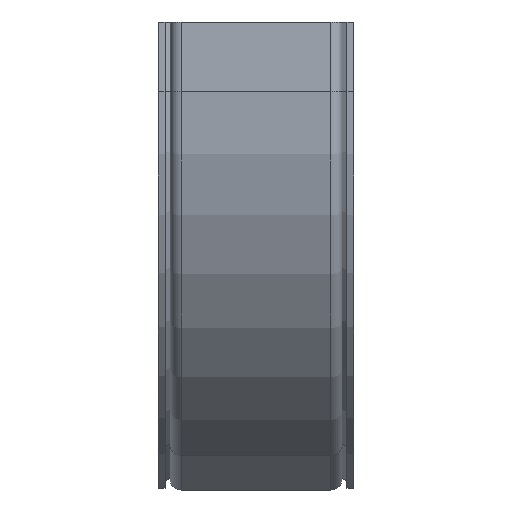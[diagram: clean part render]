
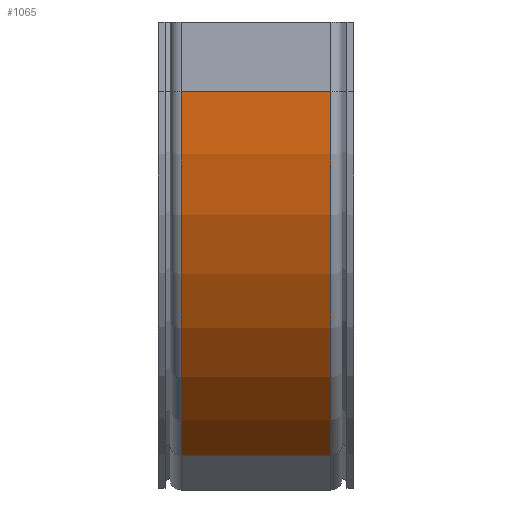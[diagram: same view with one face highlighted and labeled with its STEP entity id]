
A CAD part, left-side view. The second image highlights one B-rep face of the part: STEP entity #1065.
In plain terms, the highlighted cylindrical face has radius 242.5 mm (diameter 485 mm), a partial arc.
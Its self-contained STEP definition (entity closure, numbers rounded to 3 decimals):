
#445 = DIRECTION ( 'NONE',  ( 0., -1., 0. ) ) ;
#831 = AXIS2_PLACEMENT_3D ( 'NONE', #982, #1063, #936 ) ;
#936 = DIRECTION ( 'NONE',  ( 0., 0., 1. ) ) ;
#982 = CARTESIAN_POINT ( 'NONE',  ( 200., 0., -40. ) ) ;
#1003 = CARTESIAN_POINT ( 'NONE',  ( 78.75, 43., -250.011 ) ) ;
#1030 = EDGE_LOOP ( 'NONE', ( #4096, #4074, #4061, #4059 ) ) ;
#1063 = DIRECTION ( 'NONE',  ( 0., 1., 0. ) ) ;
#1065 = ADVANCED_FACE ( 'NONE', ( #1140 ), #1108, .T. ) ;
#1108 = CYLINDRICAL_SURFACE ( 'NONE', #831, 242.5 ) ;
#1140 = FACE_OUTER_BOUND ( 'NONE', #1030, .T. ) ;
#1197 = CARTESIAN_POINT ( 'NONE',  ( -42.5, -43., -40. ) ) ;
#1592 = VERTEX_POINT ( 'NONE', #3703 ) ;
#1865 = VECTOR ( 'NONE', #3365, 1000. ) ;
#1872 = LINE ( 'NONE', #3071, #1865 ) ;
#2877 = VERTEX_POINT ( 'NONE', #5297 ) ;
#3071 = CARTESIAN_POINT ( 'NONE',  ( -42.5, 0., -40. ) ) ;
#3221 = CARTESIAN_POINT ( 'NONE',  ( 78.75, 43., -250.011 ) ) ;
#3302 = VERTEX_POINT ( 'NONE', #1197 ) ;
#3365 = DIRECTION ( 'NONE',  ( 0., 1., 0. ) ) ;
#3667 = AXIS2_PLACEMENT_3D ( 'NONE', #5411, #5373, #5321 ) ;
#3702 = AXIS2_PLACEMENT_3D ( 'NONE', #4398, #4232, #3791 ) ;
#3703 = CARTESIAN_POINT ( 'NONE',  ( -42.5, 43., -40. ) ) ;
#3791 = DIRECTION ( 'NONE',  ( 0., 0., 1. ) ) ;
#3880 = EDGE_CURVE ( 'NONE', #4054, #1592, #4147, .T. ) ;
#3885 = EDGE_CURVE ( 'NONE', #4054, #2877, #4119, .T. ) ;
#3902 = EDGE_CURVE ( 'NONE', #2877, #3302, #4146, .T. ) ;
#4054 = VERTEX_POINT ( 'NONE', #3221 ) ;
#4059 = ORIENTED_EDGE ( 'NONE', *, *, #3902, .T. ) ;
#4061 = ORIENTED_EDGE ( 'NONE', *, *, #3885, .T. ) ;
#4074 = ORIENTED_EDGE ( 'NONE', *, *, #3880, .F. ) ;
#4096 = ORIENTED_EDGE ( 'NONE', *, *, #4634, .T. ) ;
#4119 = LINE ( 'NONE', #1003, #4144 ) ;
#4144 = VECTOR ( 'NONE', #445, 1000. ) ;
#4146 = CIRCLE ( 'NONE', #3667, 242.5 ) ;
#4147 = CIRCLE ( 'NONE', #3702, 242.5 ) ;
#4232 = DIRECTION ( 'NONE',  ( 0., 1., 0. ) ) ;
#4398 = CARTESIAN_POINT ( 'NONE',  ( 200., 43., -40. ) ) ;
#4634 = EDGE_CURVE ( 'NONE', #3302, #1592, #1872, .T. ) ;
#5297 = CARTESIAN_POINT ( 'NONE',  ( 78.75, -43., -250.011 ) ) ;
#5321 = DIRECTION ( 'NONE',  ( 0., 0., 1. ) ) ;
#5373 = DIRECTION ( 'NONE',  ( 0., 1., 0. ) ) ;
#5411 = CARTESIAN_POINT ( 'NONE',  ( 200., -43., -40. ) ) ;
